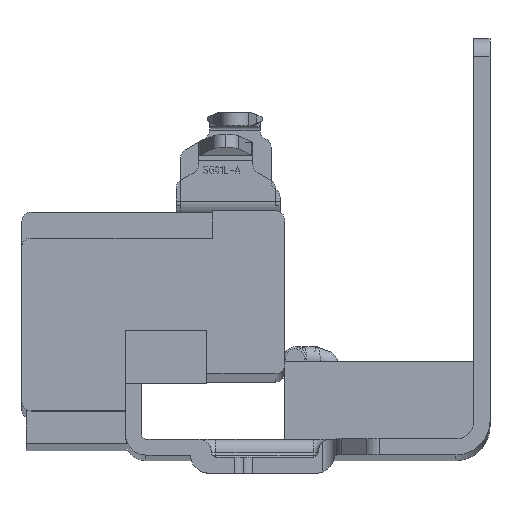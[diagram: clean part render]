
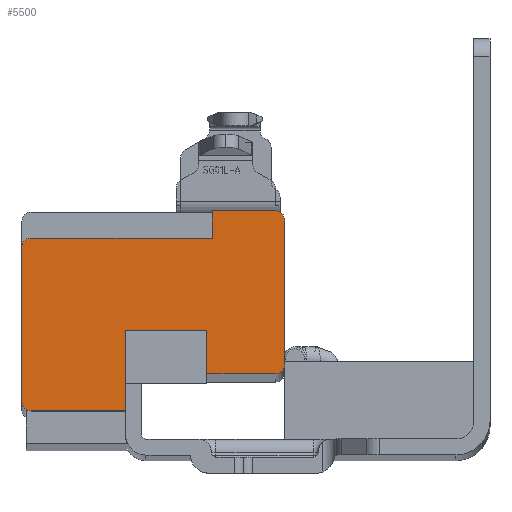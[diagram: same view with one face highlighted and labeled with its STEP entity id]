
A CAD part, top view. The second image highlights one B-rep face of the part: STEP entity #5500.
In plain terms, the highlighted planar face has unit normal (0, 0, 1).
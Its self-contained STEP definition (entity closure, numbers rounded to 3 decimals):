
#330 = DIRECTION ( 'NONE',  ( -1., 0., 0. ) ) ;
#416 = LINE ( 'NONE', #11803, #5472 ) ;
#423 = ORIENTED_EDGE ( 'NONE', *, *, #9035, .F. ) ;
#561 = VERTEX_POINT ( 'NONE', #6944 ) ;
#573 = VERTEX_POINT ( 'NONE', #6264 ) ;
#619 = VERTEX_POINT ( 'NONE', #6295 ) ;
#681 = VECTOR ( 'NONE', #2061, 1000. ) ;
#707 = ORIENTED_EDGE ( 'NONE', *, *, #3683, .F. ) ;
#899 = CARTESIAN_POINT ( 'NONE',  ( -71.88, 0.03, -18.7 ) ) ;
#1116 = DIRECTION ( 'NONE',  ( 0., 0., -1. ) ) ;
#1157 = CIRCLE ( 'NONE', #1614, 1. ) ;
#1310 = VERTEX_POINT ( 'NONE', #2089 ) ;
#1614 = AXIS2_PLACEMENT_3D ( 'NONE', #10356, #4264, #11368 ) ;
#1619 = CARTESIAN_POINT ( 'NONE',  ( -40.3, 1., -18.7 ) ) ;
#1676 = CARTESIAN_POINT ( 'NONE',  ( -40.3, -18.1, -18.7 ) ) ;
#1798 = EDGE_CURVE ( 'NONE', #573, #1310, #2030, .T. ) ;
#1847 = ORIENTED_EDGE ( 'NONE', *, *, #9877, .T. ) ;
#1850 = ORIENTED_EDGE ( 'NONE', *, *, #12383, .F. ) ;
#1897 = VERTEX_POINT ( 'NONE', #3563 ) ;
#2030 = LINE ( 'NONE', #1619, #11562 ) ;
#2061 = DIRECTION ( 'NONE',  ( 0., -1., 0. ) ) ;
#2089 = CARTESIAN_POINT ( 'NONE',  ( -70.91, 1., -18.7 ) ) ;
#2204 = ORIENTED_EDGE ( 'NONE', *, *, #6809, .F. ) ;
#2220 = AXIS2_PLACEMENT_3D ( 'NONE', #11979, #5858, #13000 ) ;
#2277 = VECTOR ( 'NONE', #5894, 1000. ) ;
#2517 = EDGE_CURVE ( 'NONE', #6726, #561, #12635, .T. ) ;
#2559 = CARTESIAN_POINT ( 'NONE',  ( -40.3, -14., -18.7 ) ) ;
#2789 = ORIENTED_EDGE ( 'NONE', *, *, #5863, .T. ) ;
#3494 = EDGE_LOOP ( 'NONE', ( #9557, #423, #2789, #4618, #1847, #2204, #8145, #1850, #707, #9964, #6473, #9327, #10498, #4138 ) ) ;
#3563 = CARTESIAN_POINT ( 'NONE',  ( -42.85, 3., -18.7 ) ) ;
#3668 = DIRECTION ( 'NONE',  ( 0., -1., 0. ) ) ;
#3683 = EDGE_CURVE ( 'NONE', #1897, #6376, #9862, .T. ) ;
#3711 = AXIS2_PLACEMENT_3D ( 'NONE', #7170, #1116, #8219 ) ;
#3784 = VERTEX_POINT ( 'NONE', #10233 ) ;
#3941 = EDGE_CURVE ( 'NONE', #561, #1897, #5233, .T. ) ;
#4138 = ORIENTED_EDGE ( 'NONE', *, *, #8170, .F. ) ;
#4264 = DIRECTION ( 'NONE',  ( 0., 0., -1. ) ) ;
#4367 = DIRECTION ( 'NONE',  ( 0., 1., 0. ) ) ;
#4618 = ORIENTED_EDGE ( 'NONE', *, *, #7319, .F. ) ;
#4675 = DIRECTION ( 'NONE',  ( 0., 0., -1. ) ) ;
#4844 = VERTEX_POINT ( 'NONE', #10664 ) ;
#5131 = VECTOR ( 'NONE', #10827, 1000. ) ;
#5184 = VERTEX_POINT ( 'NONE', #12824 ) ;
#5233 = CIRCLE ( 'NONE', #9120, 1. ) ;
#5448 = VERTEX_POINT ( 'NONE', #6293 ) ;
#5472 = VECTOR ( 'NONE', #12808, 1000. ) ;
#5491 = CARTESIAN_POINT ( 'NONE',  ( -70.88, -18.1, -18.7 ) ) ;
#5500 = ADVANCED_FACE ( 'NONE', ( #8575 ), #9439, .T. ) ;
#5858 = DIRECTION ( 'NONE',  ( 0., 0., -1. ) ) ;
#5863 = EDGE_CURVE ( 'NONE', #8705, #7767, #7849, .T. ) ;
#5873 = DIRECTION ( 'NONE',  ( 1., 0., 0. ) ) ;
#5894 = DIRECTION ( 'NONE',  ( 0., 1., 0. ) ) ;
#5914 = LINE ( 'NONE', #2559, #11049 ) ;
#6264 = CARTESIAN_POINT ( 'NONE',  ( -50.85, 1., -18.7 ) ) ;
#6293 = CARTESIAN_POINT ( 'NONE',  ( -51.45, -14., -18.7 ) ) ;
#6295 = CARTESIAN_POINT ( 'NONE',  ( -60.45, -9.185, -18.7 ) ) ;
#6374 = DIRECTION ( 'NONE',  ( 0., 0., 1. ) ) ;
#6376 = VERTEX_POINT ( 'NONE', #7391 ) ;
#6395 = LINE ( 'NONE', #7068, #681 ) ;
#6473 = ORIENTED_EDGE ( 'NONE', *, *, #2517, .F. ) ;
#6726 = VERTEX_POINT ( 'NONE', #11347 ) ;
#6809 = EDGE_CURVE ( 'NONE', #5448, #3784, #12952, .T. ) ;
#6850 = CIRCLE ( 'NONE', #2220, 0.97 ) ;
#6891 = DIRECTION ( 'NONE',  ( -1., 0., 0. ) ) ;
#6944 = CARTESIAN_POINT ( 'NONE',  ( -43.85, 4., -18.7 ) ) ;
#6997 = AXIS2_PLACEMENT_3D ( 'NONE', #12501, #6374, #330 ) ;
#7068 = CARTESIAN_POINT ( 'NONE',  ( -60.45, 0., -18.7 ) ) ;
#7073 = EDGE_CURVE ( 'NONE', #5184, #5448, #5914, .T. ) ;
#7144 = VECTOR ( 'NONE', #11127, 1000. ) ;
#7170 = CARTESIAN_POINT ( 'NONE',  ( -70.88, -17.1, -18.7 ) ) ;
#7285 = CARTESIAN_POINT ( 'NONE',  ( -51.45, 0., -18.7 ) ) ;
#7319 = EDGE_CURVE ( 'NONE', #619, #7767, #6395, .T. ) ;
#7366 = VECTOR ( 'NONE', #3668, 1000. ) ;
#7391 = CARTESIAN_POINT ( 'NONE',  ( -42.85, -13., -18.7 ) ) ;
#7730 = CARTESIAN_POINT ( 'NONE',  ( -48.65, 4., -18.7 ) ) ;
#7767 = VERTEX_POINT ( 'NONE', #13132 ) ;
#7849 = LINE ( 'NONE', #1676, #5131 ) ;
#8055 = CARTESIAN_POINT ( 'NONE',  ( -42.85, 0., -18.7 ) ) ;
#8145 = ORIENTED_EDGE ( 'NONE', *, *, #7073, .F. ) ;
#8170 = EDGE_CURVE ( 'NONE', #11662, #1310, #6850, .T. ) ;
#8219 = DIRECTION ( 'NONE',  ( -1., 0., 0. ) ) ;
#8575 = FACE_OUTER_BOUND ( 'NONE', #3494, .T. ) ;
#8619 = DIRECTION ( 'NONE',  ( -1., 0., 0. ) ) ;
#8705 = VERTEX_POINT ( 'NONE', #5491 ) ;
#9035 = EDGE_CURVE ( 'NONE', #8705, #4844, #9082, .T. ) ;
#9082 = CIRCLE ( 'NONE', #3711, 1. ) ;
#9120 = AXIS2_PLACEMENT_3D ( 'NONE', #10804, #4675, #11813 ) ;
#9327 = ORIENTED_EDGE ( 'NONE', *, *, #9465, .F. ) ;
#9439 = PLANE ( 'NONE',  #6997 ) ;
#9465 = EDGE_CURVE ( 'NONE', #573, #6726, #10035, .T. ) ;
#9557 = ORIENTED_EDGE ( 'NONE', *, *, #10842, .T. ) ;
#9862 = LINE ( 'NONE', #8055, #7144 ) ;
#9877 = EDGE_CURVE ( 'NONE', #619, #3784, #416, .T. ) ;
#9928 = VECTOR ( 'NONE', #5873, 1000. ) ;
#9964 = ORIENTED_EDGE ( 'NONE', *, *, #3941, .F. ) ;
#10035 = LINE ( 'NONE', #13036, #2277 ) ;
#10233 = CARTESIAN_POINT ( 'NONE',  ( -51.45, -9.185, -18.7 ) ) ;
#10265 = VECTOR ( 'NONE', #4367, 1000. ) ;
#10356 = CARTESIAN_POINT ( 'NONE',  ( -43.85, -13., -18.7 ) ) ;
#10418 = LINE ( 'NONE', #12757, #7366 ) ;
#10498 = ORIENTED_EDGE ( 'NONE', *, *, #1798, .T. ) ;
#10664 = CARTESIAN_POINT ( 'NONE',  ( -71.88, -17.1, -18.7 ) ) ;
#10804 = CARTESIAN_POINT ( 'NONE',  ( -43.85, 3., -18.7 ) ) ;
#10827 = DIRECTION ( 'NONE',  ( 1., 0., 0. ) ) ;
#10842 = EDGE_CURVE ( 'NONE', #11662, #4844, #10418, .T. ) ;
#11049 = VECTOR ( 'NONE', #8619, 1000. ) ;
#11127 = DIRECTION ( 'NONE',  ( 0., -1., 0. ) ) ;
#11347 = CARTESIAN_POINT ( 'NONE',  ( -50.85, 4., -18.7 ) ) ;
#11368 = DIRECTION ( 'NONE',  ( -1., 0., 0. ) ) ;
#11562 = VECTOR ( 'NONE', #6891, 1000. ) ;
#11662 = VERTEX_POINT ( 'NONE', #899 ) ;
#11803 = CARTESIAN_POINT ( 'NONE',  ( -58.68, -9.185, -18.7 ) ) ;
#11813 = DIRECTION ( 'NONE',  ( -1., 0., 0. ) ) ;
#11979 = CARTESIAN_POINT ( 'NONE',  ( -70.91, 0.03, -18.7 ) ) ;
#12383 = EDGE_CURVE ( 'NONE', #6376, #5184, #1157, .T. ) ;
#12501 = CARTESIAN_POINT ( 'NONE',  ( -40.3, 0., -18.7 ) ) ;
#12635 = LINE ( 'NONE', #7730, #9928 ) ;
#12757 = CARTESIAN_POINT ( 'NONE',  ( -71.88, 0., -18.7 ) ) ;
#12808 = DIRECTION ( 'NONE',  ( 1., 0., 0. ) ) ;
#12824 = CARTESIAN_POINT ( 'NONE',  ( -43.85, -14., -18.7 ) ) ;
#12952 = LINE ( 'NONE', #7285, #10265 ) ;
#13000 = DIRECTION ( 'NONE',  ( -1., 0., 0. ) ) ;
#13036 = CARTESIAN_POINT ( 'NONE',  ( -50.85, 0., -18.7 ) ) ;
#13132 = CARTESIAN_POINT ( 'NONE',  ( -60.45, -18.1, -18.7 ) ) ;
